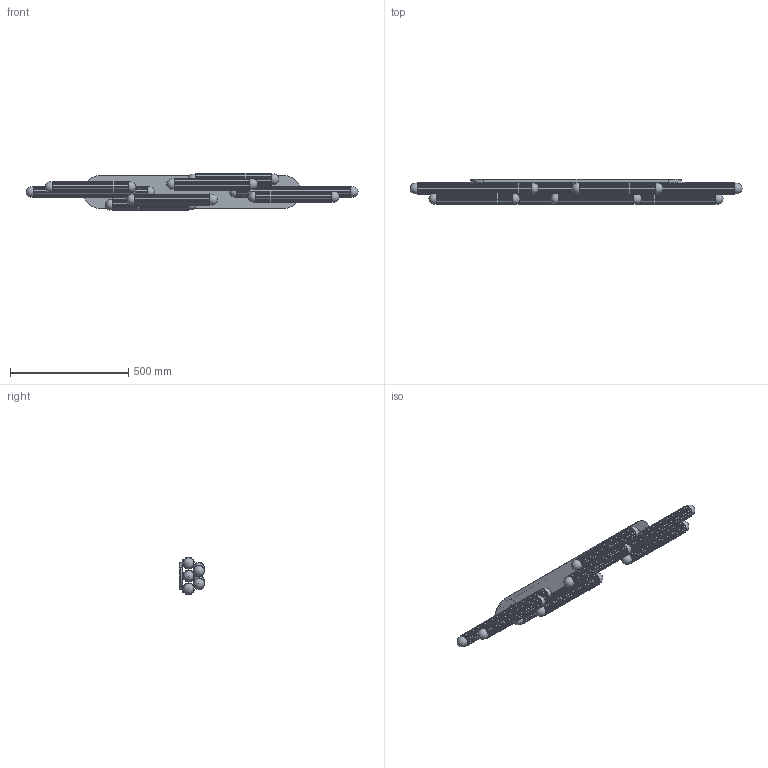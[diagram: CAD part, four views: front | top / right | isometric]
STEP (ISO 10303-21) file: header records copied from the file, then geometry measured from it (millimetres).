
FILE_DESCRIPTION(/* description */ (''),/* implementation_level */ '2;1');
FILE_NAME(/* name */ 'B746 Vesta XXXLG.stp',/* time_stamp */ '2025-07-10T15:31:19+02:00',/* author */ ('Lukasz'),/* organization */ (''),/* preprocessor_version */ 'ST-DEVELOPER v20.1',/* originating_system */ 'Autodesk Inventor 2026',/* authorisation */ '');
FILE_SCHEMA (('AUTOMOTIVE_DESIGN { 1 0 10303 214 3 1 1 }'));
Length unit declared in the file: millimetre
Products named in the file (1): Część27
Bounding box: 1403.6 x 107.33 x 157.38 mm (x, y, z)
Volume: 2117267.3 mm3; surface area: 1803602.5 mm2
Topology: 65 solids, 65 shells, 1834 faces, 5033 edges, 3298 vertices
Faces by surface type: plane 804, cylinder 791, cone 111, torus 80, bspline 32, sphere 16
Full cylindrical faces by diameter (mm): 2.693 x30, 3 x31, 4 x24, 5.5 x30, 7 x12, 10 x2, 10.5 x2, 12 x16, 17 x16
Entity records: 64727 total; most frequent: CARTESIAN_POINT 14882, DIRECTION 10287, ORIENTED_EDGE 10034, EDGE_CURVE 5017, AXIS2_PLACEMENT_3D 3759, VERTEX_POINT 3298, LINE 2769, VECTOR 2769
